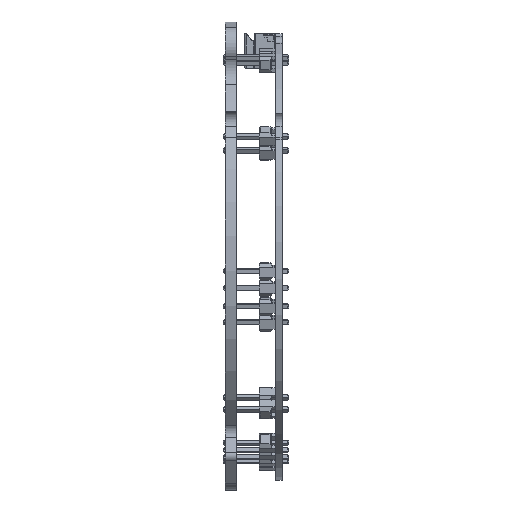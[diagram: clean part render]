
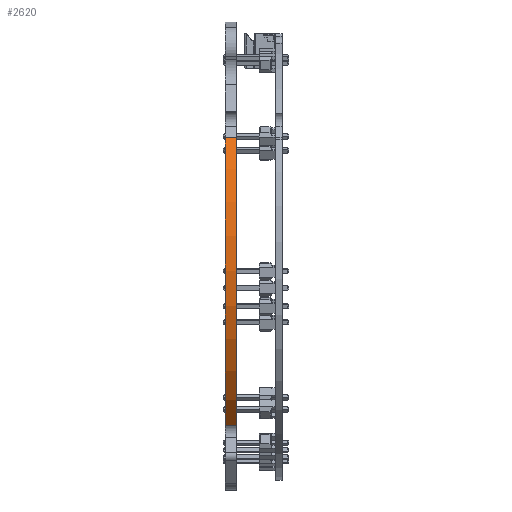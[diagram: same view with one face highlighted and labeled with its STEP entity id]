
A CAD part, left-side view. The second image highlights one B-rep face of the part: STEP entity #2620.
In plain terms, the highlighted cylindrical face has radius 34.4 mm (diameter 68.8 mm), a partial arc.
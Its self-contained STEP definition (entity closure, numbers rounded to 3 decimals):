
#1257 = VECTOR ( 'NONE', #3396, 1000. ) ;
#1629 = EDGE_CURVE ( 'NONE', #6006, #14309, #6979, .T. ) ;
#1891 = LINE ( 'NONE', #9302, #18315 ) ;
#2620 = ADVANCED_FACE ( 'NONE', ( #11062 ), #10960, .T. ) ;
#2732 = ORIENTED_EDGE ( 'NONE', *, *, #19693, .T. ) ;
#3380 = DIRECTION ( 'NONE',  ( 0., 0., 1. ) ) ;
#3396 = DIRECTION ( 'NONE',  ( 0., 1., 0. ) ) ;
#3868 = ORIENTED_EDGE ( 'NONE', *, *, #1629, .F. ) ;
#3956 = EDGE_CURVE ( 'NONE', #6006, #15081, #1891, .T. ) ;
#4496 = CARTESIAN_POINT ( 'NONE',  ( 29.007, 0., 18.492 ) ) ;
#6006 = VERTEX_POINT ( 'NONE', #8067 ) ;
#6979 = CIRCLE ( 'NONE', #11102, 34.4 ) ;
#7479 = VERTEX_POINT ( 'NONE', #18599 ) ;
#8067 = CARTESIAN_POINT ( 'NONE',  ( 29.007, 1.7, 18.492 ) ) ;
#8515 = ORIENTED_EDGE ( 'NONE', *, *, #17826, .T. ) ;
#9302 = CARTESIAN_POINT ( 'NONE',  ( 29.007, 10., 18.492 ) ) ;
#9394 = ORIENTED_EDGE ( 'NONE', *, *, #3956, .T. ) ;
#9473 = DIRECTION ( 'NONE',  ( 0., 0., -1. ) ) ;
#10358 = DIRECTION ( 'NONE',  ( 0., 1., 0. ) ) ;
#10960 = CYLINDRICAL_SURFACE ( 'NONE', #12664, 34.4 ) ;
#11062 = FACE_OUTER_BOUND ( 'NONE', #14465, .T. ) ;
#11102 = AXIS2_PLACEMENT_3D ( 'NONE', #16894, #18485, #3380 ) ;
#12664 = AXIS2_PLACEMENT_3D ( 'NONE', #17189, #12773, #9473 ) ;
#12773 = DIRECTION ( 'NONE',  ( 0., -1., 0. ) ) ;
#13110 = CIRCLE ( 'NONE', #14700, 34.4 ) ;
#13539 = DIRECTION ( 'NONE',  ( 0., 0., 1. ) ) ;
#13727 = CARTESIAN_POINT ( 'NONE',  ( 23.044, 1.7, -25.541 ) ) ;
#14309 = VERTEX_POINT ( 'NONE', #13727 ) ;
#14465 = EDGE_LOOP ( 'NONE', ( #3868, #9394, #2732, #8515 ) ) ;
#14700 = AXIS2_PLACEMENT_3D ( 'NONE', #16374, #10358, #13539 ) ;
#15081 = VERTEX_POINT ( 'NONE', #4496 ) ;
#15483 = DIRECTION ( 'NONE',  ( 0., -1., 0. ) ) ;
#16374 = CARTESIAN_POINT ( 'NONE',  ( 0., 0., 0. ) ) ;
#16894 = CARTESIAN_POINT ( 'NONE',  ( 0., 1.7, 0. ) ) ;
#17189 = CARTESIAN_POINT ( 'NONE',  ( 0., 1.7, 0. ) ) ;
#17214 = LINE ( 'NONE', #18810, #1257 ) ;
#17826 = EDGE_CURVE ( 'NONE', #7479, #14309, #17214, .T. ) ;
#18315 = VECTOR ( 'NONE', #15483, 1000. ) ;
#18485 = DIRECTION ( 'NONE',  ( 0., 1., 0. ) ) ;
#18599 = CARTESIAN_POINT ( 'NONE',  ( 23.044, 0., -25.541 ) ) ;
#18810 = CARTESIAN_POINT ( 'NONE',  ( 23.044, -14.036, -25.541 ) ) ;
#19693 = EDGE_CURVE ( 'NONE', #15081, #7479, #13110, .T. ) ;
